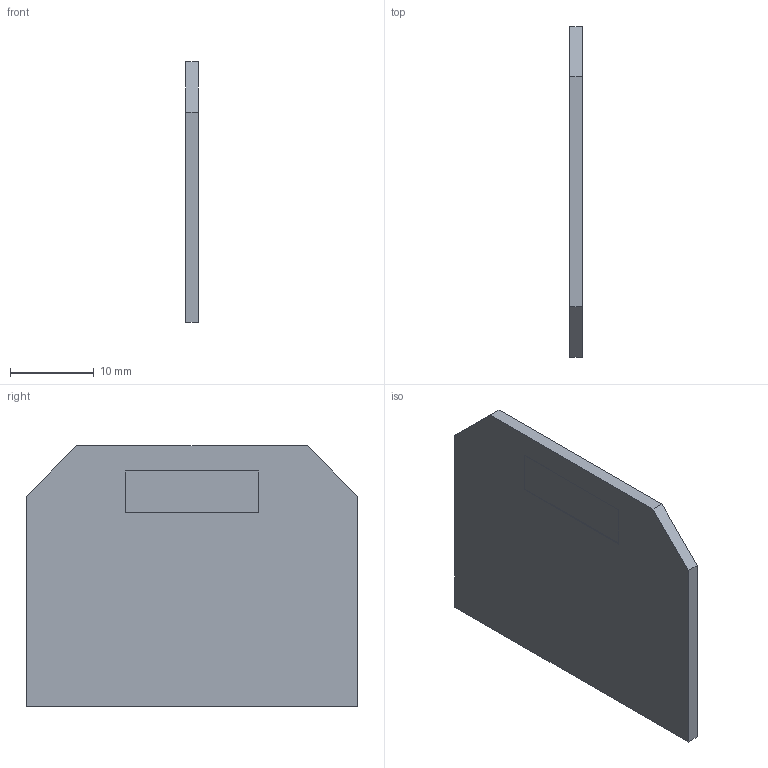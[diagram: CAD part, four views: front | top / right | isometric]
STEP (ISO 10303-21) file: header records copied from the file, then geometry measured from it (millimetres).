
FILE_DESCRIPTION(('Open CASCADE Model'),'2;1');
FILE_NAME('Open CASCADE Shape Model','2022-04-14T15:18:42',('Author'),( 'Open CASCADE'),'Open CASCADE STEP processor 6.5','Open CASCADE 6.5' ,'Unknown');
FILE_SCHEMA(('AUTOMOTIVE_DESIGN { 1 0 10303 214 1 1 1 1 }'));
Length unit declared in the file: millimetre
Products named in the file (14): CADSOFTTOOLS 1; CADSOFTTOOLS 1.1; CADSOFTTOOLS 1.2; CADSOFTTOOLS 1.3; CADSOFTTOOLS 1.4; CADSOFTTOOLS 1.5; CADSOFTTOOLS 1.6; CADSOFTTOOLS 1.7; CADSOFTTOOLS 1.8; CADSOFTTOOLS 1.9; CADSOFTTOOLS 1.10; CADSOFTTOOLS 1.11; CADSOFTTOOLS 1.12; CADSOFTTOOLS 1.13
Assembly tree (13 placements, depth 2):
  CADSOFTTOOLS 1
    CADSOFTTOOLS 1.1
    CADSOFTTOOLS 1.2
    CADSOFTTOOLS 1.3
    CADSOFTTOOLS 1.4
    CADSOFTTOOLS 1.5
    CADSOFTTOOLS 1.6
    CADSOFTTOOLS 1.7
    CADSOFTTOOLS 1.8
    CADSOFTTOOLS 1.9
    CADSOFTTOOLS 1.10
    CADSOFTTOOLS 1.11
    CADSOFTTOOLS 1.12
    CADSOFTTOOLS 1.13
Bounding box: 1.5 x 39.5 x 31.1 mm (x, y, z)
Surface area: 2590.4 mm2 (no closed solid volume)
Topology: 0 solids, 13 shells, 13 faces, 60 edges, 60 vertices
Faces by surface type: plane 13
Entity records: 1282 total; most frequent: CARTESIAN_POINT 207, DIRECTION 174, LINE 120, VECTOR 120, ORIENTED_EDGE 60, EDGE_CURVE 60, VERTEX_POINT 60, SURFACE_CURVE 60
